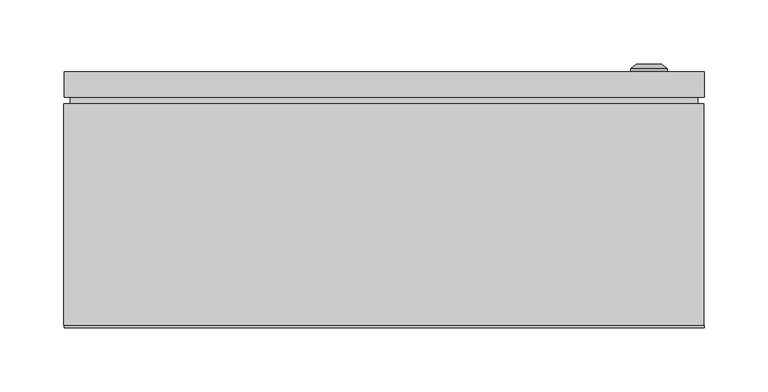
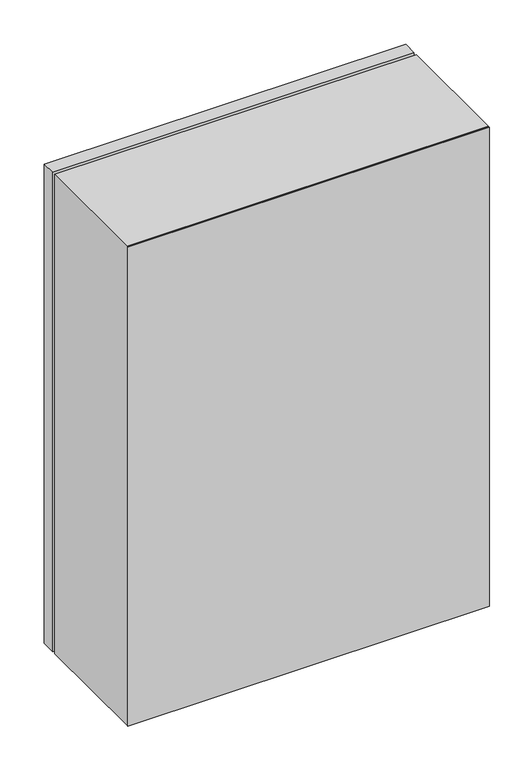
"""IFC4 building model written with IfcOpenShell, lengths in millimetres: proxy geometry, ЩМП_IP65 : ЩМП-7.5.2_700х500х200."""

from ifc_helpers import new_model, si_unit, frame, origin, origin_with_axes, place, context, project, spatial, polyline, circle_curve, outline, extrude, source, transform, mapped, element, save
from ifc_brep_helpers import plane_surface, cylinder_surface, revolved_surface, advanced_brep


def electrical_equipment_9a04b312(model_context):
    return source(origin(), model_context, "Body", "SolidModel", [
        extrude(outline(polyline([(245.0, 175.0), (-245.0, 175.0), (-245.0, 180.0), (245.0, 180.0), (245.0, 175.0)])), frame((0.0, 0.0, 5.0), z_axis=(0.0, 0.0, 1.0), x_axis=(1.0, 0.0, 0.0)), (0.0, 0.0, 1.0), 690.0),
        extrude(outline(polyline([(250.0, 180.0), (-250.0, 180.0), (-250.0, 200.0), (250.0, 200.0), (250.0, 180.0)])), origin_with_axes(), (0.0, 0.0, 1.0), 700.0),
        advanced_brep(
        [(192.669873, 200.0, 364.5), (221.330127, 200.0, 364.5), (207.0, 200.0, 364.5), (192.669873, 202.366592, 364.5), (221.330127, 202.366592, 364.5), (197.0, 206.0, 364.5), (217.0, 206.0, 364.5), (205.1080471, 206.0, 364.5), (208.8919529, 206.0, 364.5), (205.1080471, 204.9822294, 364.5), (208.8919529, 204.9822294, 364.5), (207.0, 204.9822294, 364.5)],
        [
            (0, 1, circle_curve(frame((207.0, 200.0, 364.5), z_axis=(0.0, -1.0, 0.0), x_axis=(1.0, 0.0, 0.0)), 14.330127)),
            (1, 2),
            (2, 0),
            (1, 0, circle_curve(frame((207.0, 200.0, 364.5), z_axis=(0.0, -1.0, 0.0), x_axis=(1.0, 0.0, 0.0)), 14.330127)),
            (3, 4, circle_curve(frame((207.0, 202.366592, 364.5), z_axis=(0.0, -1.0, 0.0), x_axis=(1.0, 0.0, 0.0)), 14.330127)),
            (4, 1),
            (0, 3),
            (4, 3, circle_curve(frame((207.0, 202.366592, 364.5), z_axis=(0.0, -1.0, 0.0), x_axis=(1.0, 0.0, 0.0)), 14.330127)),
            (5, 6, circle_curve(frame((207.0, 206.0, 364.5), z_axis=(0.0, -1.0, 0.0), x_axis=(1.0, 0.0, 0.0)), 10.0)),
            (6, 4),
            (3, 5),
            (6, 5, circle_curve(frame((207.0, 206.0, 364.5), z_axis=(0.0, -1.0, 0.0), x_axis=(1.0, 0.0, 0.0)), 10.0)),
            (7, 8, circle_curve(frame((207.0, 206.0, 364.5), z_axis=(0.0, -1.0, 0.0), x_axis=(1.0, 0.0, 0.0)), 1.8919529)),
            (8, 6),
            (5, 7),
            (8, 7, circle_curve(frame((207.0, 206.0, 364.5), z_axis=(0.0, -1.0, 0.0), x_axis=(1.0, 0.0, 0.0)), 1.8919529)),
            (9, 10, circle_curve(frame((207.0, 204.9822294, 364.5), z_axis=(0.0, -1.0, 0.0), x_axis=(1.0, 0.0, 0.0)), 1.8919529)),
            (10, 8),
            (7, 9),
            (10, 9, circle_curve(frame((207.0, 204.9822294, 364.5), z_axis=(0.0, -1.0, 0.0), x_axis=(1.0, 0.0, 0.0)), 1.8919529)),
            (11, 10),
            (9, 11),
        ],
        [
            plane_surface(frame((207.0, 200.0, 364.5), z_axis=(0.0, -1.0, 0.0), x_axis=(1.0, 0.0, 0.0))),
            cylinder_surface(frame((207.0, 213.1348851, 364.5), z_axis=(0.0, 1.0, 0.0), x_axis=(1.0, 0.0, 0.0)), 14.330127),
            revolved_surface(polyline([(221.330127, 202.366592, 364.5), (217.0, 206.0, 364.5)]), (207.0, 213.1348851, 364.5), (0.0, 1.0, 0.0)),
            plane_surface(frame((207.0, 206.0, 364.5), z_axis=(0.0, 1.0, 0.0), x_axis=(1.0, 0.0, 0.0))),
            revolved_surface(polyline([(208.8919529, 206.0, 364.5), (208.8919529, 204.9822294, 364.5)]), (207.0, 213.1348851, 364.5), (0.0, 1.0, 0.0)),
            plane_surface(frame((207.0, 204.9822294, 364.5), z_axis=(0.0, 1.0, 0.0), x_axis=(1.0, 0.0, 0.0))),
        ],
        [
            (0, [[1, 2, 3]]),
            (0, [[4, -3, -2]]),
            (1, [[5, 6, -1, 7]]),
            (1, [[8, -7, -4, -6]]),
            (2, [[9, 10, -5, 11]]),
            (2, [[12, -11, -8, -10]]),
            (3, [[13, 14, -9, 15]]),
            (3, [[16, -15, -12, -14]]),
            (4, [[17, 18, -13, 19]]),
            (4, [[20, -19, -16, -18]]),
            (5, [[21, -17, 22]]),
            (5, [[-22, -20, -21]]),
        ],
    ),
        extrude(outline(polyline([(700.0, -250.0033905), (0.0, -250.0033905), (0.0, 249.9966095), (700.0, 249.9966095), (700.0, -250.0033905)]), holes=[polyline([(665.0, -217.0033905), (665.0, 216.9966095), (64.0, 216.9966095), (64.0, -217.0033905), (665.0, -217.0033905)])]), frame((0.0, 2.0, 0.0), z_axis=(0.0, 1.0, 0.0), x_axis=(0.0, 0.0, 1.0)), (0.0, 0.0, 1.0), 173.0),
        extrude(outline(polyline([(250.0, 0.0), (-250.0, 0.0), (-250.0, 2.0), (250.0, 2.0), (250.0, 0.0)])), origin_with_axes(), (0.0, 0.0, 1.0), 700.0),
    ])


if __name__ == "__main__":
    model = new_model("IFC4")
    model_context = context("Model", 3, world=origin())
    ifc_project = project(units=[si_unit("LENGTHUNIT", "METRE", prefix="MILLI")], contexts=[model_context])
    site = spatial("IfcSite", under=ifc_project)
    building = spatial("IfcBuilding", under=site)
    placement = place(None, origin())
    electrical_equipment_shape = electrical_equipment_9a04b312(model_context)
    element("IfcBuildingElementProxy", 1, Name="ЩМП_IP65 : ЩМП-7.5.2_700х500х200", ObjectType="ЩМП_IP65 : ЩМП-7.5.2_700х500х200", at=placement, inside=building, context=model_context, shape_type="MappedRepresentation", body=[
        mapped(electrical_equipment_shape, transform((0.0, 0.0, 0.0), x_axis=(1.0, 0.0, 0.0), y_axis=(0.0, 1.0, 0.0), z_axis=(0.0, 0.0, 1.0))),
    ])
    save(model, "model.ifc")
